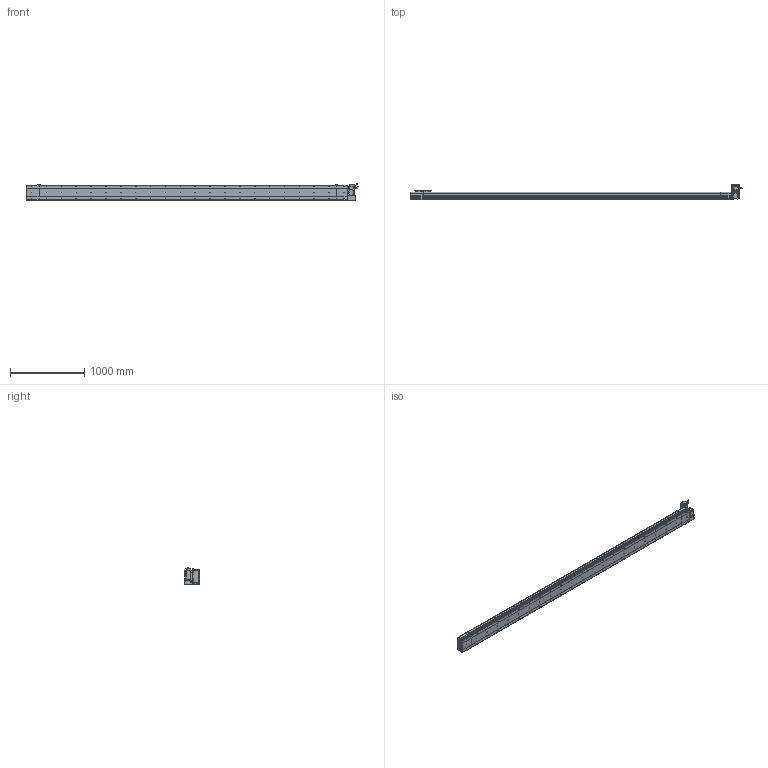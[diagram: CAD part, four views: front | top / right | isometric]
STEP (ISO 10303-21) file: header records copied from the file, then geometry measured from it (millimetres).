
FILE_DESCRIPTION (( 'STEP AP214' ), '1' );
FILE_NAME ('D20 CBH RT S4000.STEP', '2010-06-30T11:18:41', ( 'Conseil Régional Haute-Normandie' ), ( 'Conseil Régional Haute-Normandie' ), 'SwSTEP 2.0', 'SolidWorks 2010', '' );
FILE_SCHEMA (( 'AUTOMOTIVE_DESIGN' ));
Length unit declared in the file: millimetre
Products named in the file (31): Conecteur2_Default; vis M5 L15_Default; Glissiere_Default; avant 90BLDC125A-640; Moteur motionking 90BLDC125A-640; Couvercle S4000_Default; Chariot D20_Default; Support Chariot D20_Default; corps 90BLDC125A-640; Plaque de Bout Tail D20_Default; Couvercle_Default; Corp Tail D20_Default; codeur 90BLDC125-640; Plaque De Serrage D20_Default; Couvercle RT_Default; Corp Tail D20 RT_Default; Plaque De Serrage D20 RT_Default; Plaque de Bout Head D20 RT_Default; Support moteur RT_Default; Cache Support Moteur RT_Default; D20 CBH RT S4000; Head RT_Default; Corp S4000_Default; vis M5 L47_Default; Rondelle Cache D20 RT_Default; vis M5 L30_Default; Conecteur_Default; ecrou_Default; Corp D20 S4000_Default; Tail D20_Default
Assembly tree (68 placements, depth 4):
  D20 CBH RT S4000
    Corp D20 S4000_Default
      Corp S4000_Default
      Couvercle S4000_Default
    Head RT_Default
      ecrou_Default  x4
      vis M5 L15_Default  x14
      Support moteur RT_Default
      Corp Tail D20 RT_Default
      Rondelle Cache D20 RT_Default  x3
      vis M5 L30_Default  x4
      vis M5 L47_Default  x4
      Plaque de Bout Head D20 RT_Default
      Plaque De Serrage D20 RT_Default
      Moteur motionking 90BLDC125A-640
        Conecteur_Default
        Conecteur2_Default
        corps 90BLDC125A-640
        codeur 90BLDC125-640
        avant 90BLDC125A-640
      Cache Support Moteur RT_Default
      Couvercle RT_Default
    Chariot D20_Default
      Chariot D20_Default
      Glissiere_Default
      vis M5 L15_Default  x8
      Support Chariot D20_Default
    Tail D20_Default
      Corp Tail D20_Default
      vis M5 L15_Default  x6
      Couvercle_Default
      Plaque de Bout Tail D20_Default
      Plaque De Serrage D20_Default
Bounding box: 4464.45 x 206.5 x 229.7 mm (x, y, z)
Volume: 29559603.5 mm3; surface area: 5632065.5 mm2
Topology: 105 solids, 105 shells, 3907 faces, 9678 edges, 6286 vertices
Faces by surface type: plane 2158, bspline 806, cylinder 772, torus 95, cone 72, sphere 4
Entity records: 161822 total; most frequent: CARTESIAN_POINT 82703, ORIENTED_EDGE 15624, DIRECTION 12094, EDGE_CURVE 7812, VERTEX_POINT 5170, LINE 4996, VECTOR 4996, AXIS2_PLACEMENT_3D 3549
